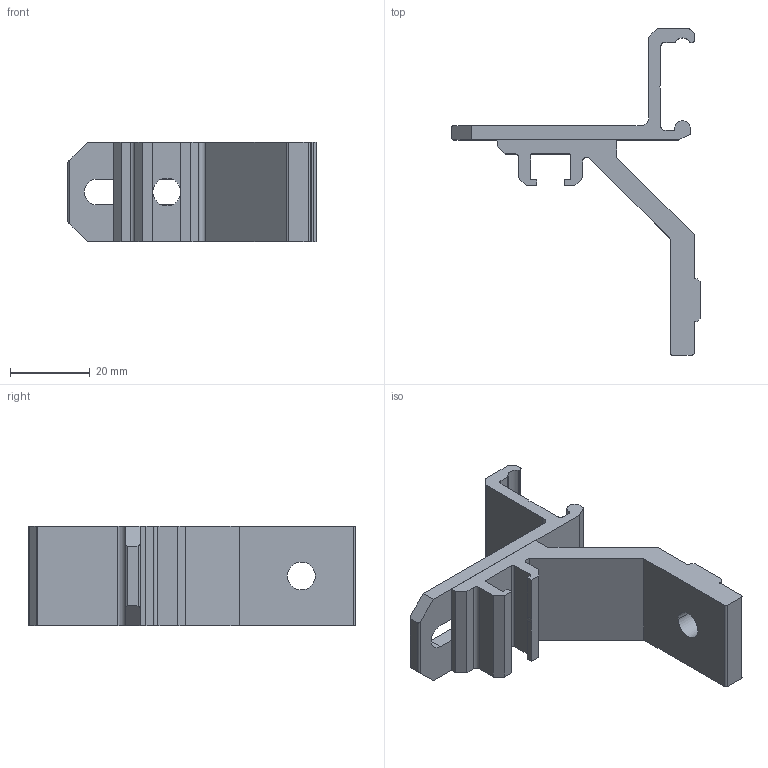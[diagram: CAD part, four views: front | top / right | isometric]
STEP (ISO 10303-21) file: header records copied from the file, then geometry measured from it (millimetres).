
FILE_DESCRIPTION (( 'STEP AP214' ), '1' );
FILE_NAME ('FABER - FGRA 26X39X45.STEP', '2017-04-05T12:11:33', ( '' ), ( '' ), 'SwSTEP 2.0', 'SolidWorks 2016', '' );
FILE_SCHEMA (( 'AUTOMOTIVE_DESIGN' ));
Length unit declared in the file: millimetre
Products named in the file (3): Partie sup. FGRA-8 ou 26x39x45; Support inférieur FGRA-26x9x45; FABER - FGRA 26X39X45
Assembly tree (2 placements, depth 2):
  FABER - FGRA 26X39X45
    Support inférieur FGRA-26x9x45
    Partie sup. FGRA-8 ou 26x39x45
Bounding box: 62.36 x 81.9 x 25 mm (x, y, z)
Volume: 18636.4 mm3; surface area: 11613.1 mm2
Topology: 2 solids, 2 shells, 90 faces, 258 edges, 172 vertices
Faces by surface type: plane 56, cylinder 34
Entity records: 3068 total; most frequent: CARTESIAN_POINT 543, ORIENTED_EDGE 516, DIRECTION 506, EDGE_CURVE 258, LINE 188, VECTOR 188, VERTEX_POINT 172, AXIS2_PLACEMENT_3D 159
